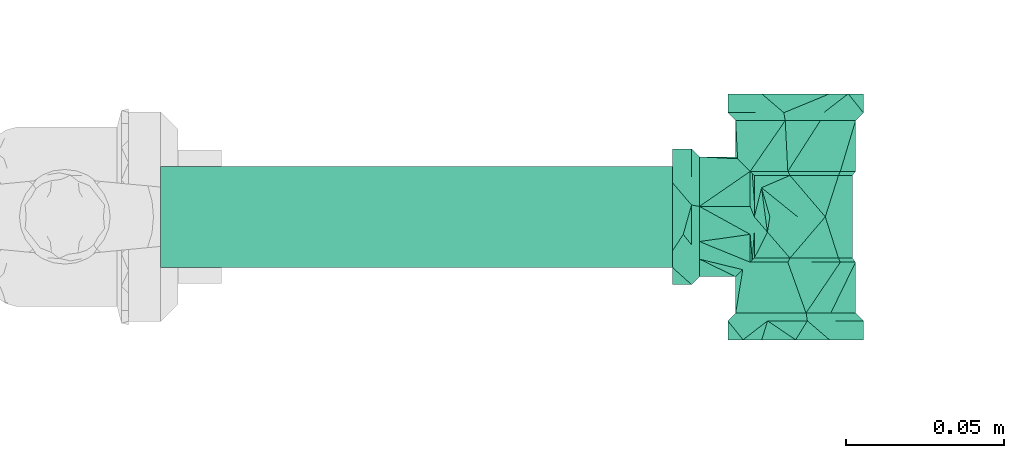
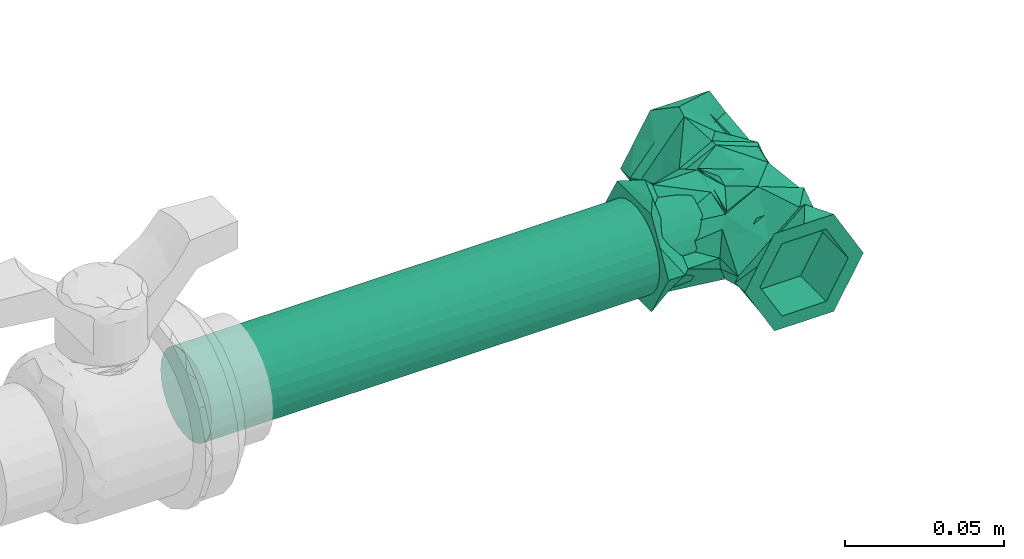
# One storey, part 63 of 589: 1 flow fitting, 1 flow segment.
"""IFC2X3 building model written with IfcOpenShell, lengths in millimetres."""

from ifc_helpers import new_model, entity, si_unit, converted_unit, derived_unit, direction, frame, origin, origin_2d_with_axis, place, context, subcontext, project, spatial, circle, extrude, faceted_brep, source, transform, mapped, material, type_object, type_shapes, element, save


model = new_model("IFC2X3")

# Units and contexts
model_context = context("Model", 3, precision=0.01, world=origin(), true_north=direction((6.123031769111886e-17, 1.0)))
body_context = subcontext(model_context, "Body", "Model", "MODEL_VIEW")
ifc_project = project(units=[si_unit("LENGTHUNIT", "METRE", prefix="MILLI"), si_unit("AREAUNIT", "SQUARE_METRE"), si_unit("VOLUMEUNIT", "CUBIC_METRE"), converted_unit("PLANEANGLEUNIT", "DEGREE", entity("IfcRatioMeasure", 0.017453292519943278), si_unit("PLANEANGLEUNIT", "RADIAN"), dimensions=[0, 0, 0, 0, 0, 0, 0]), si_unit("MASSUNIT", "GRAM", prefix="KILO"), derived_unit("MASSDENSITYUNIT", [(si_unit("MASSUNIT", "GRAM", prefix="KILO"), 1), (si_unit("LENGTHUNIT", "METRE"), -3)]), derived_unit("IONCONCENTRATIONUNIT", [(si_unit("MASSUNIT", "GRAM", prefix="KILO"), 1), (si_unit("LENGTHUNIT", "METRE"), -3)]), derived_unit("MOMENTOFINERTIAUNIT", [(si_unit("LENGTHUNIT", "METRE"), 4)]), si_unit("TIMEUNIT", "SECOND"), si_unit("FREQUENCYUNIT", "HERTZ"), si_unit("THERMODYNAMICTEMPERATUREUNIT", "DEGREE_CELSIUS"), derived_unit("THERMALTRANSMITTANCEUNIT", [(si_unit("MASSUNIT", "GRAM", prefix="KILO"), 1), (si_unit("THERMODYNAMICTEMPERATUREUNIT", "KELVIN"), -1), (si_unit("TIMEUNIT", "SECOND"), -3)]), derived_unit("THERMALCONDUCTANCEUNIT", [(si_unit("MASSUNIT", "GRAM", prefix="KILO"), 1), (si_unit("THERMODYNAMICTEMPERATUREUNIT", "KELVIN"), -1), (si_unit("TIMEUNIT", "SECOND"), -3), (si_unit("LENGTHUNIT", "METRE"), 1)]), derived_unit("VOLUMETRICFLOWRATEUNIT", [(si_unit("LENGTHUNIT", "METRE"), 3), (si_unit("TIMEUNIT", "SECOND"), -1)]), derived_unit("MASSFLOWRATEUNIT", [(si_unit("MASSUNIT", "GRAM", prefix="KILO"), 1), (si_unit("TIMEUNIT", "SECOND"), -1)]), derived_unit("ROTATIONALFREQUENCYUNIT", [(si_unit("TIMEUNIT", "SECOND"), -1)]), si_unit("ELECTRICCURRENTUNIT", "AMPERE"), si_unit("ELECTRICVOLTAGEUNIT", "VOLT"), si_unit("POWERUNIT", "WATT"), si_unit("FORCEUNIT", "NEWTON", prefix="KILO"), si_unit("ILLUMINANCEUNIT", "LUX"), si_unit("LUMINOUSFLUXUNIT", "LUMEN"), si_unit("LUMINOUSINTENSITYUNIT", "CANDELA"), derived_unit("USERDEFINED", [(si_unit("MASSUNIT", "GRAM", prefix="KILO"), -1), (si_unit("LENGTHUNIT", "METRE"), -2), (si_unit("TIMEUNIT", "SECOND"), 3), (si_unit("LUMINOUSFLUXUNIT", "LUMEN"), 1)]), derived_unit("USERDEFINED", [(si_unit("MASSUNIT", "GRAM", prefix="KILO"), 1), (si_unit("TIMEUNIT", "SECOND"), -3), (si_unit("LENGTHUNIT", "METRE"), 3), (si_unit("ELECTRICCURRENTUNIT", "AMPERE"), -2)]), derived_unit("SOUNDPOWERUNIT", [(si_unit("MASSUNIT", "GRAM", prefix="KILO"), 1), (si_unit("TIMEUNIT", "SECOND"), -3), (si_unit("LENGTHUNIT", "METRE"), 2)]), derived_unit("SOUNDPRESSUREUNIT", [(si_unit("MASSUNIT", "GRAM", prefix="KILO"), 1), (si_unit("LENGTHUNIT", "METRE"), -1), (si_unit("TIMEUNIT", "SECOND"), -2)]), derived_unit("LINEARVELOCITYUNIT", [(si_unit("LENGTHUNIT", "METRE"), 1), (si_unit("TIMEUNIT", "SECOND"), -1)]), si_unit("PRESSUREUNIT", "PASCAL"), derived_unit("USERDEFINED", [(si_unit("MASSUNIT", "GRAM", prefix="KILO"), 1), (si_unit("LENGTHUNIT", "METRE"), -2), (si_unit("TIMEUNIT", "SECOND"), -2)]), derived_unit("LINEARFORCEUNIT", [(si_unit("MASSUNIT", "GRAM", prefix="KILO"), 1), (si_unit("TIMEUNIT", "SECOND"), -2)]), derived_unit("PLANARFORCEUNIT", [(si_unit("MASSUNIT", "GRAM", prefix="KILO"), 1), (si_unit("LENGTHUNIT", "METRE"), -1), (si_unit("TIMEUNIT", "SECOND"), -2)]), derived_unit("SPECIFICHEATCAPACITYUNIT", [(si_unit("THERMODYNAMICTEMPERATUREUNIT", "KELVIN"), -1), (si_unit("LENGTHUNIT", "METRE"), 2), (si_unit("TIMEUNIT", "SECOND"), -2)]), derived_unit("HEATINGVALUEUNIT", [(si_unit("LENGTHUNIT", "METRE"), 2), (si_unit("TIMEUNIT", "SECOND"), -2)]), derived_unit("VAPORPERMEABILITYUNIT", [(si_unit("LENGTHUNIT", "METRE"), -1), (si_unit("TIMEUNIT", "SECOND"), 1)]), derived_unit("DYNAMICVISCOSITYUNIT", [(si_unit("MASSUNIT", "GRAM", prefix="KILO"), 1), (si_unit("TIMEUNIT", "SECOND"), -1), (si_unit("LENGTHUNIT", "METRE"), -1)]), derived_unit("THERMALEXPANSIONCOEFFICIENTUNIT", [(si_unit("THERMODYNAMICTEMPERATUREUNIT", "KELVIN"), -1)]), derived_unit("MODULUSOFELASTICITYUNIT", [(si_unit("MASSUNIT", "GRAM", prefix="KILO"), 1), (si_unit("LENGTHUNIT", "METRE"), -1), (si_unit("TIMEUNIT", "SECOND"), -2)]), derived_unit("ISOTHERMALMOISTURECAPACITYUNIT", [(si_unit("LENGTHUNIT", "METRE"), 3), (si_unit("MASSUNIT", "GRAM", prefix="KILO"), -1)]), derived_unit("MOISTUREDIFFUSIVITYUNIT", [(si_unit("TIMEUNIT", "SECOND"), -1), (si_unit("LENGTHUNIT", "METRE"), 2)])], contexts=[model_context])

# Site, building, storey
site_placement = place(None, origin())
site = spatial("IfcSite", under=ifc_project, at=site_placement, Name="Default", CompositionType="ELEMENT")
building_placement = place(site_placement, origin())
building = spatial("IfcBuilding", under=site, at=building_placement, CompositionType="ELEMENT")
storey_placement = place(building_placement, frame((0.0, 0.0, 100.0)))
storey = spatial("IfcBuildingStorey", under=building, at=storey_placement, Name="TÉRREO", CompositionType="ELEMENT", Elevation=100.0)

# Flow segment
pipe_segment_type = type_object("IfcPipeSegmentType", Name="Tipos de tubos:PVC Marrom Soldável", PredefinedType="NOTDEFINED")
flow_segment_placement = place(storey_placement, origin())
element("IfcFlowSegment", 1, at=flow_segment_placement, inside=storey, type_object=pipe_segment_type, Name="Tipos de tubos:PVC Marrom Soldável", ObjectType="Tipos de tubos:PVC Marrom Soldável", context=body_context, shape_type="SweptSolid", body=[
    extrude(circle(Radius=16.0, at=origin_2d_with_axis()), frame((5144.355548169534, -7410.836480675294, 3855.0), z_axis=(1.0, 0.0, 0.0), x_axis=(0.0, 1.0, 0.0)), (0.0, 0.0, 1.0), 180.9603200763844),
])

# Flow fitting
ifc_material = material(Name="PVC Marrom")
pipe_fitting_type = type_object("IfcPipeFittingType", Name="PVC Marrom Soldável_Tê e Tê de Reducão_Rodrigo MEP:Tê", PredefinedType="NOTDEFINED", material=ifc_material)
shared_shape = source(origin(), body_context, "Body", "Brep", [
    faceted_brep([(10.749999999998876, -39.0, -18.619546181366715), (16.0, -39.0, 0.0), (12.0, -39.0, -6.928203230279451), (16.66854307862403, -39.0, -8.36832886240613), (8.0, -39.0, -13.856406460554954), (0.0, -39.0, -13.856406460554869), (-8.0, -39.0, -13.856406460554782), (0.0, -39.0, -18.619546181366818), (21.500000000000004, -39.0, 0.0), (11.832084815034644, -39.0, 7.219040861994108), (8.0, -39.0, 13.856406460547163), (16.12500000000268, -39.0, 9.309773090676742), (10.750000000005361, -39.0, 18.619546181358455), (0.0, -39.0, 13.856406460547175), (-8.0, -39.0, 13.856406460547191), (0.0, -39.0, 18.61954618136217), (-10.749999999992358, -39.0, 18.61954618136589), (-16.668543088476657, -39.0, 8.368328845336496), (-21.500000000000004, -39.0, 0.0), (-12.0, -39.0, 6.928203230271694), (-16.0, -39.0, 0.0), (-16.1249999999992, -39.0, -9.309773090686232), (-10.749999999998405, -39.0, -18.619546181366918), (-11.832084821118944, -39.0, -7.219040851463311), (-12.615537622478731, -33.0, 10.586891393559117), (-3.7310752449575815, -33.0, 21.17378278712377), (5.5663459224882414, -35.634400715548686, 20.76693990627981), (-21.499999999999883, -33.0, 0.0), (21.499999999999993, -33.0, 0.0), (8.884462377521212, -33.0, 10.586891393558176), (12.618193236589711, -33.0, -10.586423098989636), (3.7363864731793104, -33.0, -21.172846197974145), (-5.562438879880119, -35.63453199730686, -20.767986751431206), (-8.881806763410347, -33.0, -10.586423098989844), (-12.0, -33.0, -6.928203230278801), (-8.0, -33.0, -13.856406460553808), (-16.0, -33.0, 0.0), (-16.0, -30.500000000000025, 0.0), (-11.832084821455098, -30.50000000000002, -7.219040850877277), (-12.0, -30.50000000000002, -6.928203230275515), (-16.0, -20.4, 0.0), (-8.0, -30.50000000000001, -13.856406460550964), (-11.832084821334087, -20.4, -7.219040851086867), (-8.0, -20.4, -13.856406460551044), (8.0, -33.0, -13.856406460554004), (0.0, -33.0, -13.856406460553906), (8.0, -30.499999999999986, -13.856406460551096), (0.0, -30.499999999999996, -13.85640646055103), (8.0, -20.4, -13.85640646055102), (0.0, -20.4, -13.856406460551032), (-22.899999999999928, -8.0, -13.856406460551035), (-22.899999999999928, 0.0, -13.856406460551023), (-30.5, 0.0, -13.856406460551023), (-30.5, -8.0, -13.856406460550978), (-30.5, 8.0, -13.856406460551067), (-22.899999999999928, 8.0, -13.85640646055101), (-39.0, 8.0, -13.856406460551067), (-39.0, 0.0, -13.856406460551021), (-39.0, -8.0, -13.856406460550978), (22.900000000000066, 8.0, -13.856406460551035), (22.900000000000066, 0.0, -13.856406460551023), (22.900000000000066, -8.0, -13.85640646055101), (39.0, -8.0, -13.856406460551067), (39.0, 0.0, -13.856406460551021), (39.0, 8.0, -13.856406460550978), (11.832084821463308, -33.0, -7.219040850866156), (16.0, -33.0, 0.0), (12.0, -30.49999999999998, -6.928203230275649), (16.0, -30.499999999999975, 0.0), (12.0, -20.4, -6.928203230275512), (16.0, -20.4, 0.0), (11.832084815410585, -30.499999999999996, -7.219040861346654), (12.0, -33.0, 6.928203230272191), (8.0, -33.0, 13.856406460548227), (11.832084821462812, -30.49999999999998, 7.219040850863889), (12.0, -30.49999999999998, 6.928203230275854), (8.0, -30.499999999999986, 13.856406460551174), (11.832084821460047, -20.4, 7.2190408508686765), (8.0, -20.4, 13.856406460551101), (-8.0, -33.0, 13.856406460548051), (0.0, -33.0, 13.856406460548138), (-8.0, -30.50000000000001, 13.856406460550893), (0.0, -30.5, 13.856406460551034), (-8.0, -20.4, 13.856406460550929), (0.0, -20.4, 13.856406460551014), (-22.899999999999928, 8.0, 13.85640646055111), (-22.899999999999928, 0.0, 13.856406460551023), (-30.5, 0.0, 13.856406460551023), (-30.5, 8.0, 13.85640646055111), (-30.5, -8.0, 13.856406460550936), (-22.899999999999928, -8.0, 13.856406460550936), (-39.0, -8.0, 13.856406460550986), (-39.0, 0.0, 13.856406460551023), (-39.0, 8.0, 13.856406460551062), (22.900000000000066, -8.0, 13.85640646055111), (22.900000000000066, 0.0, 13.856406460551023), (22.900000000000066, 8.0, 13.856406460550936), (39.0, 8.0, 13.856406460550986), (39.0, 0.0, 13.856406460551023), (39.0, -8.0, 13.856406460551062), (-11.832084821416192, -33.0, 7.2190408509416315), (-12.0, -30.50000000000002, 6.928203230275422), (-12.0, -20.4, 6.928203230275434), (-11.832084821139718, -30.500000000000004, 7.219040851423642), (-19.0, -30.50000000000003, 0.0), (-13.425692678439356, -30.499999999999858, -4.677928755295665), (-7.851385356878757, -30.49999999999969, -9.355857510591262), (-6.608146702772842, -30.49999999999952, -10.399176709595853), (3.297229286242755, -30.499999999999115, -18.71171502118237), (11.148614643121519, -30.499999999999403, -9.355857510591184), (19.0, -30.49999999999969, 0.0), (7.8490385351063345, -30.500000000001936, 9.355443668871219), (-3.3019229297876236, -30.500000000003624, 18.710887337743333), (-8.094202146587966, -30.50000000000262, 12.99886311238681), (-11.150961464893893, -30.50000000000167, 9.35544366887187), (13.424519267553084, -30.500000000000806, 4.677721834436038), (-3.2522100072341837, -14.400000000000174, 18.719592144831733), (-10.289812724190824, -14.400000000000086, 14.726976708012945), (-14.400000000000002, -14.40000000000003, 12.395160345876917), (19.0, -19.0, 0.0), (16.767135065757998, -16.767135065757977, 8.936620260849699), (-18.402193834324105, -18.402193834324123, 4.728558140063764), (-19.0, -19.0, 0.0), (14.400000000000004, -14.399999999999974, 12.395160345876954), (5.5738949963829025, -14.400000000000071, 15.557376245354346), (3.2522095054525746, -14.399999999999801, -18.71959223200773), (10.289812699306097, -14.39999999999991, -14.726976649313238), (14.399999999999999, -14.399999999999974, -12.395160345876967), (-16.76484456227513, -16.764844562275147, -8.940916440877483), (18.40219383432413, -18.402193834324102, -4.728558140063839), (-14.399999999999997, -14.400000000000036, -12.39516034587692), (-5.573895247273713, -14.39999999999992, -15.557376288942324), (13.749859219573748, -13.74985921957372, -12.376888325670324), (-4.945359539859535, -13.100000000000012, -15.865050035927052), (8.128165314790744e-06, -13.100000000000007, -18.0), (4.945360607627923, -13.099999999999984, -15.865053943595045), (13.100000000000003, -13.099999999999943, -12.344634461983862), (-13.749859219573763, -13.749859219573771, -12.376888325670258), (-13.1, -13.100000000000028, -12.344634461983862), (-13.74985921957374, -13.749859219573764, 12.376888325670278), (4.9453606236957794, -13.099999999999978, 15.86505393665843), (8.128165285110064e-06, -13.09999999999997, 18.0), (-4.945359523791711, -13.099999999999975, 15.865050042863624), (-13.1, -13.099999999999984, 12.344634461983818), (13.749859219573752, -13.749859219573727, 12.376888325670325), (13.099999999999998, -13.09999999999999, 12.344634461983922), (-4.833352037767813, -8.945106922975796, -15.620021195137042), (9.227915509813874, -10.815577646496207, -14.3883035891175), (0.0, -8.16558109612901, -16.04129936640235), (4.83335203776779, -8.945106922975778, 15.620021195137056), (-9.227915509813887, -10.81557764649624, 14.388303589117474), (0.0, -8.16558109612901, 16.041299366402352), (-22.899999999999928, -16.0, 0.0), (-22.899999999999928, -11.83208482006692, 7.21904085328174), (-22.899999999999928, 12.0, 6.928203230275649), (-22.899999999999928, 16.0, 0.0), (-22.899999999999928, 11.832084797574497, -7.219040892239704), (-22.899999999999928, -12.0, -6.928203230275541), (-30.5, -11.832084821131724, 7.2190408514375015), (-30.5, -12.0, 6.928203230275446), (-30.5, -16.0, 0.0), (-39.0, -12.0, 6.928203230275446), (-39.0, -16.0, 0.0), (39.0, -16.0, 0.0), (22.900000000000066, -16.0, 0.0), (22.900000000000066, -12.0, 6.928203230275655), (39.0, -11.857972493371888, 7.174202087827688), (-30.5, 16.0, 0.0), (-30.5, 12.0, 6.928203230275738), (-39.0, 16.0, 0.0), (-30.499999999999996, 11.83208482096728, 7.219040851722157), (-39.0, 11.832084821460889, 7.219040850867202), (22.900000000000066, 11.857972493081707, 7.1742020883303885), (22.900000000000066, 16.0, 0.0), (39.0, 16.0, 0.0), (39.0, 12.0, 6.928203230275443), (-30.5, 11.832084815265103, -7.2190408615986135), (-30.5, 12.0, -6.928203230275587), (-39.0, 12.0, -6.928203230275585), (22.900000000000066, 12.0, -6.92820323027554), (39.0, 11.857972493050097, -7.1742020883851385), (-30.5, -12.0, -6.9282032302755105), (-30.499999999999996, -11.832084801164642, -7.219040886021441), (-39.0, -11.832084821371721, -7.219040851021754), (22.900000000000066, -11.857972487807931, -7.174202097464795), (39.0, -12.0, -6.928203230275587), (0.0, 9.40740514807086, -15.34603298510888), (-13.099999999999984, 13.584749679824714, -11.8090887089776), (0.0, 13.70370257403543, -7.673016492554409), (-13.099999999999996, -1.7833793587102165, -17.911436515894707), (0.0, 0.6894868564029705, -15.690953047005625), (0.0, 18.0, 0.0), (13.1, 18.0, 0.0), (-13.1, 18.0, 0.0), (-13.099999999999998, 5.900685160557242, -14.860262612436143), (-13.099999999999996, 15.792374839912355, -5.904544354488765), (-13.10000000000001, -9.089444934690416, -14.317481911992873), (0.0, 0.6209120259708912, 15.693666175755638), (0.0, 9.407405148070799, 15.346032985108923), (-13.1, 13.58474967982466, 11.809088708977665), (-13.099999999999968, 5.900685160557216, 14.860262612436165), (-13.099999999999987, -1.783379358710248, 17.911436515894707), (0.0, 13.703702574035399, 7.673016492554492), (-13.09999999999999, 16.43471082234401, 4.186543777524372), (-13.099999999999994, -9.034124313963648, 14.344694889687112), (-14.40000000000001, 14.169641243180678, -12.657853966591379), (-14.400000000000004, 16.58482062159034, -6.328926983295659), (-14.400000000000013, 5.846235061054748, -15.747839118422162), (-14.400000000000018, -2.4771711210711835, -18.837824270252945), (-14.40000000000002, -6.105567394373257, -16.877170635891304), (-14.4, 19.0, 0.0), (-14.399999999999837, 5.846235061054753, 15.747839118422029), (-14.399999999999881, -2.4771711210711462, 18.83782427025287), (-14.399999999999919, -6.105567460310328, 16.877170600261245), (-14.399999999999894, 16.58482062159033, 6.32892698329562), (-14.399999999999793, 14.169641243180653, 12.657853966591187), (-30.5, 19.0, 0.0), (-30.50000000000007, 7.849038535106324, 9.355443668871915), (-30.500000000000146, -3.3019229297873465, 18.710887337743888), (-30.5, -19.0, 0.0), (-30.50000000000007, -11.150961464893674, 9.355443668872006), (-30.499999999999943, -7.851385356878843, -9.355857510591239), (-30.499999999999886, 3.297229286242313, -18.711715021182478), (-30.499999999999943, 11.148614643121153, -9.35585751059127), (-33.0, 9.159228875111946, -14.709239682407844), (-33.0, 12.618193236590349, -10.58642309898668), (-33.0, 21.500000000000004, 0.0), (-33.0, -8.881806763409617, -10.586423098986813), (-33.0, 3.7363864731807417, -21.172846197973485), (-33.0, -21.499999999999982, 0.0), (-33.0, -3.731075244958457, 21.17378278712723), (-33.0, -12.615537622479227, 10.586891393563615), (-33.0, 8.884462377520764, 10.586891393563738), (-33.0, 7.477639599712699, 11.76748951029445), (-39.0, -10.75000000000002, -18.619546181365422), (-39.0, -16.668543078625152, -8.36832886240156), (-39.0, 0.0, -18.61954618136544), (-39.0, -21.500000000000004, 0.0), (-39.0, -16.124999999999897, 9.309773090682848), (-39.0, -10.749999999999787, 18.619546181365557), (-39.0, 0.0, 18.61954618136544), (-39.0, 10.750000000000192, 18.619546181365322), (-39.0, 16.668543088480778, 8.368328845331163), (-39.0, 21.500000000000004, 0.0), (-39.0, 16.124999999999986, -9.309773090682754), (-39.0, 10.749999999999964, -18.619546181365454), (33.0, 21.50000000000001, 0.0), (39.0, 16.124999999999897, 9.309773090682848), (39.0, 21.500000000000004, 0.0), (33.0, -21.500000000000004, 0.0), (39.0, -21.500000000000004, 0.0), (39.0, -16.668543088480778, 8.368328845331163), (39.0, -16.124999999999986, -9.309773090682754), (39.0, 16.668543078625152, -8.36832886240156), (13.10000000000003, 13.584749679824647, -11.809088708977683), (13.099999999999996, 5.900685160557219, -14.860262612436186), (13.100000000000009, -1.7833793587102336, -17.911436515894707), (13.100000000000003, 16.434710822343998, -4.18654377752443), (13.100000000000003, -9.034124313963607, -14.34469488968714), (13.09999999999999, 13.584749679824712, 11.809088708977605), (13.100000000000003, -1.7833793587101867, 17.91143651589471), (13.100000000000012, 5.900685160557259, 14.860262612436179), (13.100000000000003, 15.792374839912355, 5.904544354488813), (13.100000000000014, -9.089444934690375, 14.31748191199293), (14.40000000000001, 5.84623506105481, -15.74783911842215), (14.40000000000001, -2.4771711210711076, -18.837824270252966), (14.400000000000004, -6.105567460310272, -16.877170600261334), (14.400000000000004, 16.584820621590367, -6.328926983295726), (14.40000000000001, 14.169641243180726, -12.657853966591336), (14.4, 19.0, 0.0), (14.400000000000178, 14.169641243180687, 12.657853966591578), (14.40000000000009, 16.584820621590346, 6.328926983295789), (14.40000000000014, 5.846235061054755, 15.747839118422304), (14.400000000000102, -2.477171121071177, 18.83782427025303), (14.40000000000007, -6.105567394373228, 16.877170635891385), (30.500000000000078, -7.849038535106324, 9.355443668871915), (30.500000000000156, 3.3019229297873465, 18.710887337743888), (30.5, -19.0, 0.0), (30.500000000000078, 11.150961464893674, 9.355443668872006), (30.5, 19.0, 0.0), (30.49999999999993, 7.851385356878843, -9.355857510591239), (30.499999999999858, -3.297229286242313, -18.711715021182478), (30.499999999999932, -11.148614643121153, -9.35585751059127), (33.0, -3.7310752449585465, -21.173782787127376), (33.0, -9.157756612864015, -14.707247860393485), (33.0, -12.61553762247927, -10.58689139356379), (33.0, 8.884462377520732, -10.586891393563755), (33.0, 3.7363864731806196, 21.17284619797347), (33.0, 9.159228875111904, 14.70923968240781), (33.0, 12.618193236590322, 10.586423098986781), (33.0, -8.881806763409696, 10.586423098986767), (39.0, 10.75000000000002, -18.619546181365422), (39.0, 0.0, -18.61954618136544), (39.0, 10.749999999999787, 18.619546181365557), (39.0, 0.0, 18.61954618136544), (39.0, -10.750000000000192, 18.619546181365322), (39.0, -10.749999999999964, -18.619546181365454)], [[[0, 1, 2]], [[1, 0, 3]], [[0, 2, 4]], [[0, 4, 5]], [[0, 5, 6]], [[6, 7, 0]], [[1, 3, 8]], [[8, 9, 1]], [[8, 10, 9]], [[10, 8, 11]], [[10, 11, 12]], [[12, 13, 10]], [[12, 14, 13]], [[14, 12, 15]], [[14, 15, 16]], [[14, 16, 17]], [[14, 17, 18]], [[18, 19, 14]], [[18, 20, 19]], [[20, 18, 21]], [[20, 21, 22]], [[22, 6, 23]], [[6, 22, 7]], [[22, 23, 20]], [[24, 16, 25]], [[16, 26, 25]], [[24, 27, 17]], [[27, 18, 17]], [[28, 11, 8]], [[26, 11, 29]], [[28, 29, 11]], [[25, 26, 29]], [[26, 16, 15, 12]], [[11, 26, 12]], [[16, 24, 17]], [[30, 0, 31]], [[0, 32, 31]], [[30, 28, 3]], [[28, 8, 3]], [[27, 21, 18]], [[32, 21, 33]], [[27, 33, 21]], [[31, 32, 33]], [[32, 0, 7, 22]], [[21, 32, 22]], [[0, 30, 3]], [[34, 23, 35]], [[23, 34, 20]], [[36, 20, 34]], [[37, 36, 34]], [[34, 35, 38]], [[34, 38, 39]], [[34, 39, 37]], [[40, 37, 39]], [[23, 6, 35]], [[41, 38, 35]], [[42, 38, 41]], [[43, 42, 41]], [[42, 39, 38]], [[39, 42, 40]], [[44, 45, 4]], [[46, 45, 44]], [[47, 45, 46]], [[48, 47, 46]], [[49, 47, 48]], [[41, 47, 49]], [[49, 43, 41]], [[47, 41, 35]], [[45, 35, 5]], [[35, 6, 5]], [[35, 45, 47]], [[5, 4, 45]], [[44, 45, 4]], [[46, 45, 44]], [[47, 45, 46]], [[48, 47, 46]], [[49, 47, 48]], [[41, 47, 49]], [[49, 43, 41]], [[47, 41, 35]], [[45, 35, 5]], [[35, 6, 5]], [[35, 45, 47]], [[5, 4, 45]], [[50, 51, 52]], [[52, 53, 50]], [[52, 51, 54]], [[54, 51, 55]], [[56, 52, 54]], [[57, 52, 56]], [[53, 52, 57]], [[57, 58, 53]], [[59, 60, 61, 62, 63, 64]], [[2, 65, 4]], [[65, 2, 66]], [[2, 1, 66]], [[67, 65, 66]], [[66, 68, 67]], [[69, 67, 68]], [[68, 70, 69]], [[69, 71, 67]], [[69, 48, 71]], [[46, 71, 48]], [[44, 65, 46]], [[65, 71, 46]], [[44, 4, 65]], [[65, 67, 71]], [[72, 9, 73]], [[9, 72, 1]], [[66, 1, 72]], [[68, 66, 72]], [[72, 73, 74]], [[72, 74, 75]], [[72, 75, 68]], [[70, 68, 75]], [[9, 10, 73]], [[76, 74, 73]], [[77, 74, 76]], [[78, 77, 76]], [[77, 75, 74]], [[75, 77, 70]], [[79, 80, 14]], [[81, 80, 79]], [[82, 80, 81]], [[83, 82, 81]], [[84, 82, 83]], [[76, 82, 84]], [[84, 78, 76]], [[82, 76, 73]], [[80, 73, 13]], [[73, 10, 13]], [[73, 80, 82]], [[13, 14, 80]], [[79, 80, 14]], [[81, 80, 79]], [[82, 80, 81]], [[83, 82, 81]], [[84, 82, 83]], [[76, 82, 84]], [[84, 78, 76]], [[82, 76, 73]], [[80, 73, 13]], [[73, 10, 13]], [[73, 80, 82]], [[13, 14, 80]], [[85, 86, 87]], [[87, 88, 85]], [[87, 86, 89]], [[89, 86, 90]], [[91, 87, 89]], [[92, 87, 91]], [[88, 87, 92]], [[92, 93, 88]], [[94, 95, 96, 97, 98, 99]], [[19, 100, 14]], [[100, 19, 36]], [[19, 20, 36]], [[101, 100, 36]], [[36, 37, 101]], [[102, 101, 37]], [[37, 40, 102]], [[102, 103, 101]], [[102, 83, 103]], [[81, 103, 83]], [[79, 100, 81]], [[100, 103, 81]], [[79, 14, 100]], [[100, 101, 103]], [[33, 104, 105, 106, 107]], [[31, 107, 108]], [[31, 108, 109]], [[109, 30, 31]], [[110, 30, 109]], [[107, 31, 33]], [[28, 30, 110]], [[104, 33, 27]], [[110, 29, 28]], [[111, 25, 29]], [[25, 111, 112]], [[25, 113, 24]], [[104, 27, 24]], [[113, 25, 112]], [[24, 113, 114, 104]], [[29, 110, 115, 111]], [[112, 116, 117, 118]], [[115, 119, 120]], [[121, 122, 104]], [[121, 104, 114]], [[111, 123, 124]], [[114, 118, 121]], [[118, 114, 113, 112]], [[120, 111, 115]], [[112, 124, 116]], [[124, 112, 111]], [[115, 110, 119]], [[111, 120, 123]], [[108, 125, 126, 127]], [[105, 122, 128]], [[129, 119, 110]], [[129, 110, 109]], [[106, 130, 131]], [[109, 127, 129]], [[108, 127, 109]], [[128, 106, 105]], [[108, 131, 125]], [[131, 108, 107, 106]], [[105, 104, 122]], [[106, 128, 130]], [[132, 127, 126]], [[133, 134, 131]], [[126, 125, 135]], [[135, 136, 132]], [[137, 133, 131]], [[137, 138, 133]], [[131, 134, 125]], [[134, 135, 125]], [[132, 126, 135]], [[131, 130, 137]], [[139, 118, 117]], [[140, 141, 124]], [[117, 116, 142]], [[142, 143, 139]], [[144, 140, 124]], [[144, 145, 140]], [[124, 141, 116]], [[141, 142, 116]], [[139, 117, 142]], [[124, 123, 144]], [[146, 134, 133, 138]], [[147, 146, 148]], [[147, 136, 135, 134]], [[147, 134, 146]], [[149, 141, 140, 145]], [[141, 149, 150]], [[150, 143, 142, 141]], [[150, 149, 151]], [[48, 69, 70, 77, 78, 84, 83, 102, 40, 42, 43, 49]], [[152, 153, 90, 86, 85, 154, 155, 156, 55, 51, 50, 157]], [[90, 153, 89]], [[153, 158, 89]], [[153, 159, 158]], [[159, 153, 152]], [[152, 160, 159]], [[161, 159, 160]], [[160, 162, 161]], [[161, 91, 158]], [[161, 158, 159]], [[89, 158, 91]], [[163, 164, 165, 94, 99, 166]], [[167, 155, 154]], [[154, 168, 167]], [[169, 167, 168]], [[154, 170, 168]], [[154, 85, 170]], [[88, 170, 85]], [[171, 170, 88]], [[93, 171, 88]], [[171, 168, 170]], [[168, 171, 169]], [[96, 172, 173, 174, 175, 97]], [[55, 156, 54]], [[156, 176, 54]], [[156, 177, 176]], [[177, 156, 155]], [[155, 167, 177]], [[178, 177, 167]], [[167, 169, 178]], [[178, 56, 176]], [[178, 176, 177]], [[54, 176, 56]], [[174, 173, 179, 59, 64, 180]], [[160, 152, 157]], [[157, 181, 160]], [[162, 160, 181]], [[157, 182, 181]], [[157, 50, 182]], [[53, 182, 50]], [[183, 182, 53]], [[58, 183, 53]], [[183, 181, 182]], [[181, 183, 162]], [[61, 184, 164, 163, 185, 62]], [[186, 187, 188]], [[189, 190, 146]], [[191, 192, 188, 193]], [[186, 189, 194, 187]], [[190, 148, 146]], [[188, 187, 195, 193]], [[146, 138, 196, 189]], [[189, 186, 190]], [[197, 150, 151]], [[198, 199, 200, 201]], [[202, 193, 203, 199]], [[204, 143, 150, 201]], [[198, 201, 197]], [[199, 198, 202]], [[150, 197, 201]], [[202, 192, 191, 193]], [[187, 205, 206]], [[205, 187, 194]], [[187, 206, 195]], [[207, 189, 208]], [[137, 209, 196]], [[193, 195, 210]], [[137, 130, 209]], [[196, 138, 137]], [[189, 207, 194]], [[208, 189, 209]], [[210, 195, 206]], [[205, 194, 207]], [[189, 196, 209]], [[201, 211, 212]], [[204, 201, 213]], [[204, 213, 139]], [[213, 201, 212]], [[199, 214, 215]], [[214, 199, 203]], [[215, 200, 199]], [[203, 210, 214]], [[139, 143, 204]], [[211, 201, 200]], [[215, 211, 200]], [[203, 193, 210]], [[213, 118, 139]], [[215, 216, 217]], [[217, 212, 211, 215]], [[218, 212, 217]], [[216, 215, 214, 210]], [[219, 121, 220]], [[118, 218, 220]], [[218, 118, 213, 212]], [[122, 121, 219]], [[118, 220, 121]], [[208, 221, 222]], [[122, 219, 128]], [[205, 222, 223]], [[128, 219, 221]], [[221, 208, 209, 130]], [[222, 205, 207, 208]], [[216, 210, 223]], [[223, 210, 206, 205]], [[221, 130, 128]], [[222, 224, 223]], [[223, 224, 225, 226]], [[222, 227, 228]], [[229, 221, 219]], [[226, 216, 223]], [[224, 222, 228]], [[227, 222, 221]], [[229, 227, 221]], [[218, 230, 231]], [[231, 220, 218]], [[217, 226, 232, 233]], [[218, 233, 230]], [[229, 220, 231]], [[233, 218, 217]], [[219, 220, 229]], [[226, 217, 216]], [[234, 162, 183]], [[162, 234, 235]], [[234, 183, 58]], [[234, 58, 57]], [[234, 57, 56]], [[56, 236, 234]], [[162, 235, 237]], [[237, 161, 162]], [[237, 91, 161]], [[91, 237, 238]], [[91, 238, 239]], [[239, 92, 91]], [[239, 93, 92]], [[93, 239, 240]], [[93, 240, 241]], [[93, 241, 242]], [[93, 242, 243]], [[243, 171, 93]], [[243, 169, 171]], [[169, 243, 244]], [[169, 244, 245]], [[245, 56, 178]], [[56, 245, 236]], [[245, 178, 169]], [[232, 242, 241]], [[232, 226, 242]], [[226, 243, 242]], [[246, 247, 248]], [[229, 238, 237]], [[249, 250, 251]], [[230, 239, 231]], [[231, 239, 238]], [[229, 231, 238]], [[230, 241, 240, 239]], [[241, 230, 233, 232]], [[227, 235, 234]], [[227, 229, 235]], [[229, 237, 235]], [[249, 252, 250]], [[226, 244, 243]], [[246, 248, 253]], [[245, 225, 224, 228]], [[225, 245, 244]], [[226, 225, 244]], [[227, 236, 228]], [[228, 236, 245]], [[227, 234, 236]], [[190, 147, 148]], [[186, 254, 255, 256]], [[188, 192, 257, 254]], [[258, 136, 147, 256]], [[186, 256, 190]], [[254, 186, 188]], [[147, 190, 256]], [[198, 259, 202]], [[260, 197, 149]], [[198, 260, 261, 259]], [[197, 151, 149]], [[202, 259, 262, 192]], [[149, 145, 263, 260]], [[260, 198, 197]], [[256, 264, 265]], [[258, 256, 266]], [[258, 266, 132]], [[266, 256, 265]], [[254, 267, 268]], [[267, 254, 257]], [[268, 255, 254]], [[257, 269, 267]], [[132, 136, 258]], [[264, 256, 255]], [[268, 264, 255]], [[257, 192, 269]], [[266, 127, 132]], [[259, 270, 271]], [[270, 259, 261]], [[259, 271, 262]], [[272, 260, 273]], [[144, 274, 263]], [[192, 262, 269]], [[144, 123, 274]], [[263, 145, 144]], [[260, 272, 261]], [[273, 260, 274]], [[269, 262, 271]], [[270, 261, 272]], [[260, 263, 274]], [[273, 275, 276]], [[119, 277, 120]], [[270, 276, 278]], [[120, 277, 275]], [[275, 273, 274, 123]], [[276, 270, 272, 273]], [[279, 269, 278]], [[278, 269, 271, 270]], [[275, 123, 120]], [[268, 279, 280]], [[280, 265, 264, 268]], [[281, 265, 280]], [[279, 268, 267, 269]], [[277, 129, 282]], [[127, 281, 282]], [[281, 127, 266, 265]], [[119, 129, 277]], [[127, 282, 129]], [[281, 283, 284, 285, 249, 277, 282]], [[281, 280, 279, 246, 286, 283]], [[276, 287, 288, 289, 246, 279, 278]], [[276, 275, 277, 249, 290, 287]], [[291, 174, 180]], [[174, 291, 253]], [[291, 180, 64]], [[291, 64, 63]], [[291, 63, 62]], [[62, 292, 291]], [[174, 253, 248]], [[248, 175, 174]], [[248, 97, 175]], [[97, 248, 247]], [[97, 247, 293]], [[293, 98, 97]], [[293, 99, 98]], [[99, 293, 294]], [[99, 294, 295]], [[99, 295, 251]], [[99, 251, 250]], [[250, 166, 99]], [[250, 163, 166]], [[163, 250, 252]], [[163, 252, 296]], [[296, 62, 185]], [[62, 296, 292]], [[296, 185, 163]], [[290, 251, 295]], [[290, 249, 251]], [[293, 289, 288, 287]], [[289, 293, 247]], [[246, 289, 247]], [[290, 294, 287]], [[287, 294, 293]], [[290, 295, 294]], [[286, 253, 291]], [[286, 246, 253]], [[296, 285, 284, 283]], [[285, 296, 252]], [[249, 285, 252]], [[283, 291, 292, 296]], [[283, 286, 291]], [[173, 172, 96, 95, 94, 165, 164, 184, 61, 60, 59, 179]]]),
])
type_shapes(pipe_fitting_type, [shared_shape])
flow_fitting_placement = place(storey_placement, frame((5345.7158682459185, -7410.836480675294, 3855.0), z_axis=(0.0, 0.0, 1.0), x_axis=(0.0, -1.0, 0.0)))
element("IfcFlowFitting", 2, at=flow_fitting_placement, inside=storey, type_object=pipe_fitting_type, material=ifc_material, Name="PVC Marrom Soldável_Tê e Tê de Reducão_Rodrigo MEP:Tê", ObjectType="PVC Marrom Soldável_Tê e Tê de Reducão_Rodrigo MEP:Tê", context=body_context, shape_type="MappedRepresentation", body=[
    mapped(shared_shape, transform((0.0, 0.0, 0.0), scale=1.0)),
])

save(model, "model.ifc")
